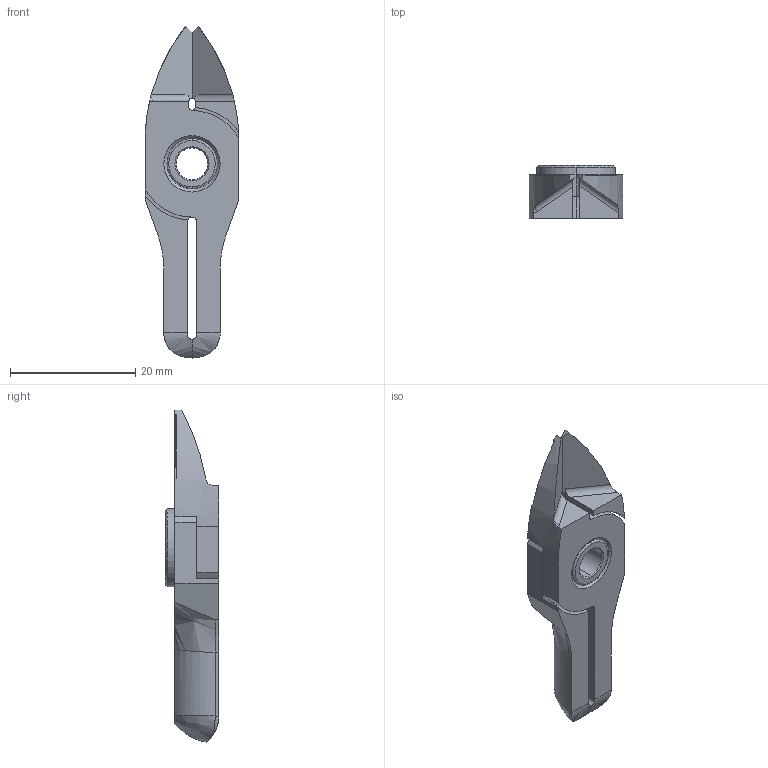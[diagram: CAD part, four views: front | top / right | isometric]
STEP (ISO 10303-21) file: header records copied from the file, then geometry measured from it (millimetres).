
FILE_DESCRIPTION (( 'STEP AP214' ), '1' );
FILE_NAME ('NY05BJ.STEP', '2019-11-28T05:23:08', ( '微软用户' ), ( '微软中国' ), 'SwSTEP 2.0', 'SolidWorks 2016', '' );
FILE_SCHEMA (( 'AUTOMOTIVE_DESIGN' ));
Length unit declared in the file: millimetre
Products named in the file (4): BR2; BR1; BS; NY05BJ
Assembly tree (3 placements, depth 2):
  NY05BJ
    BS
    BR1
    BR2
Bounding box: 15 x 8.5 x 53 mm (x, y, z)
Volume: 2921.6 mm3; surface area: 3325.6 mm2
Topology: 3 solids, 3 shells, 136 faces, 356 edges, 227 vertices
Faces by surface type: plane 44, cylinder 38, bspline 29, cone 21, torus 4
Entity records: 4886 total; most frequent: CARTESIAN_POINT 1610, ORIENTED_EDGE 704, DIRECTION 608, EDGE_CURVE 352, VERTEX_POINT 227, AXIS2_PLACEMENT_3D 225, VECTOR 158, LINE 158
